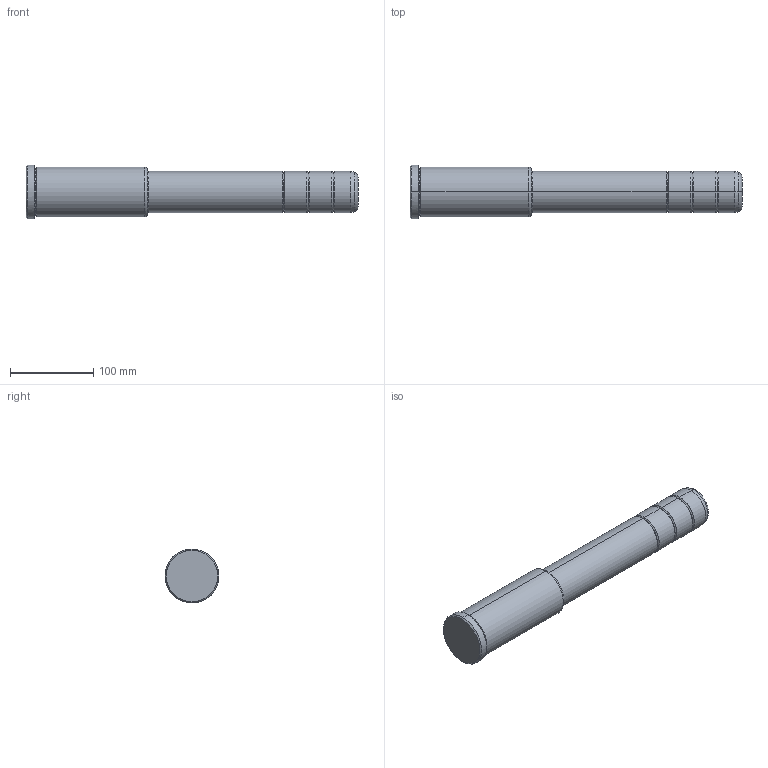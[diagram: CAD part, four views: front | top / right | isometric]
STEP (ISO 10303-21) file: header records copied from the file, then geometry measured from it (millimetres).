
FILE_DESCRIPTION(('CATIA V5 STEP Exchange'),'2;1');
FILE_NAME('C:\Users\Utente\Desktop\IO LAVORO\3D X SITO CF\X SITO\PLASTICA\351\351-50X146X400.stp','2021-11-08T19:02:11+00:00',('none'),('none'),'CATIA Version 5 Release 20 GA (IN-10)','CATIA V5 STEP AP203','none');
FILE_SCHEMA(('CONFIG_CONTROL_DESIGN'));
Length unit declared in the file: millimetre
Products named in the file (1): 351-50X146X400
Bounding box: 400 x 65 x 65 mm (x, y, z)
Volume: 911514.4 mm3; surface area: 74083.2 mm2
Topology: 1 solids, 1 shells, 41 faces, 114 edges, 76 vertices
Faces by surface type: torus 22, cylinder 12, cone 4, plane 3
Entity records: 1378 total; most frequent: CARTESIAN_POINT 288, ORIENTED_EDGE 228, DIRECTION 192, AXIS2_PLACEMENT_3D 136, EDGE_CURVE 114, CIRCLE 94, VERTEX_POINT 76, EDGE_LOOP 42
